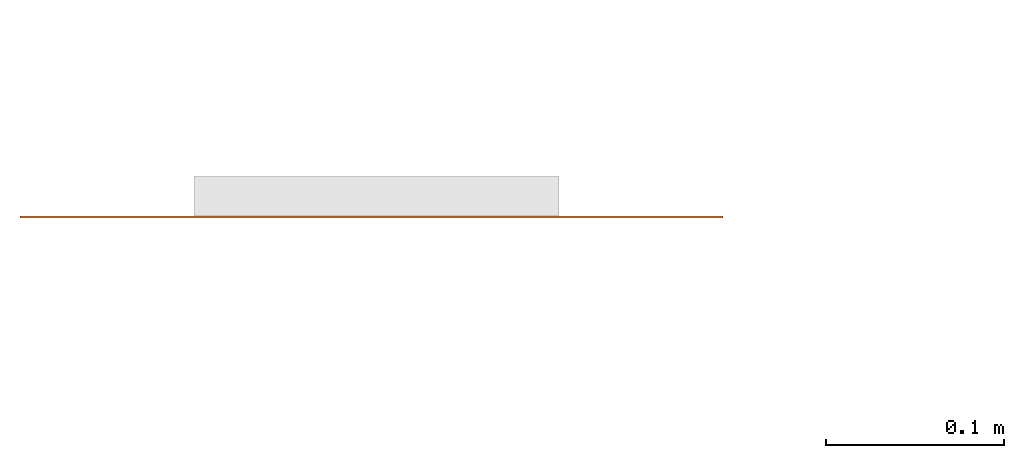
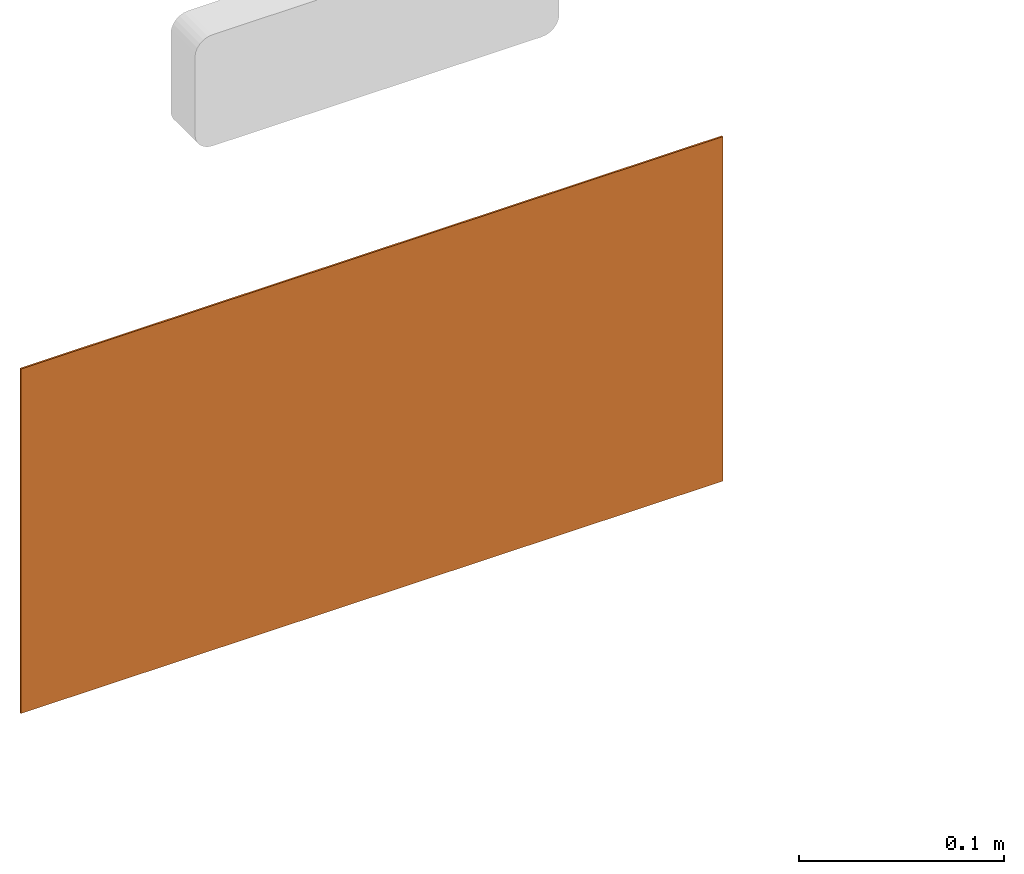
# One storey, part 110 of 119: 1 proxy.
"""IFC2X3 building model written with IfcOpenShell, lengths in metres."""

from ifc_helpers import new_model, entity, si_unit, converted_unit, derived_unit, direction, frame, origin, origin_2d_with_axis, place, context, subcontext, project, spatial, polyline, rectangle, outline, extrude, source, transform, mapped, material, material_list, type_object, type_shapes, element, save


model = new_model("IFC2X3")

# Units and contexts
model_context = context("Model", 3, precision=1e-05, world=origin(), true_north=direction((6.12303176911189e-17, 1.0)))
body_context = subcontext(model_context, "Body", "Model", "MODEL_VIEW")
ifc_project = project(units=[si_unit("LENGTHUNIT", "METRE"), si_unit("AREAUNIT", "SQUARE_METRE"), si_unit("VOLUMEUNIT", "CUBIC_METRE"), converted_unit("PLANEANGLEUNIT", "DEGREE", entity("IfcRatioMeasure", 0.0174532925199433), si_unit("PLANEANGLEUNIT", "RADIAN"), dimensions=[0, 0, 0, 0, 0, 0, 0]), si_unit("MASSUNIT", "GRAM", prefix="KILO"), derived_unit("MASSDENSITYUNIT", [(si_unit("MASSUNIT", "GRAM", prefix="KILO"), 1), (si_unit("LENGTHUNIT", "METRE"), -3)]), derived_unit("MOMENTOFINERTIAUNIT", [(si_unit("LENGTHUNIT", "METRE"), 4)]), si_unit("TIMEUNIT", "SECOND"), si_unit("FREQUENCYUNIT", "HERTZ"), si_unit("THERMODYNAMICTEMPERATUREUNIT", "DEGREE_CELSIUS"), derived_unit("THERMALTRANSMITTANCEUNIT", [(si_unit("MASSUNIT", "GRAM", prefix="KILO"), 1), (si_unit("THERMODYNAMICTEMPERATUREUNIT", "KELVIN"), -1), (si_unit("TIMEUNIT", "SECOND"), -3)]), derived_unit("VOLUMETRICFLOWRATEUNIT", [(si_unit("LENGTHUNIT", "METRE"), 3), (si_unit("TIMEUNIT", "SECOND"), -1)]), si_unit("ELECTRICCURRENTUNIT", "AMPERE"), si_unit("ELECTRICVOLTAGEUNIT", "VOLT"), si_unit("POWERUNIT", "WATT"), si_unit("FORCEUNIT", "NEWTON", prefix="KILO"), si_unit("ILLUMINANCEUNIT", "LUX"), si_unit("LUMINOUSFLUXUNIT", "LUMEN"), si_unit("LUMINOUSINTENSITYUNIT", "CANDELA"), derived_unit("USERDEFINED", [(si_unit("MASSUNIT", "GRAM", prefix="KILO"), -1), (si_unit("LENGTHUNIT", "METRE"), -2), (si_unit("TIMEUNIT", "SECOND"), 3), (si_unit("LUMINOUSFLUXUNIT", "LUMEN"), 1)]), derived_unit("LINEARVELOCITYUNIT", [(si_unit("LENGTHUNIT", "METRE"), 1), (si_unit("TIMEUNIT", "SECOND"), -1)]), si_unit("PRESSUREUNIT", "PASCAL"), derived_unit("USERDEFINED", [(si_unit("LENGTHUNIT", "METRE"), -2), (si_unit("MASSUNIT", "GRAM", prefix="KILO"), 1), (si_unit("TIMEUNIT", "SECOND"), -2)]), derived_unit("LINEARFORCEUNIT", [(si_unit("MASSUNIT", "GRAM", prefix="KILO"), 1), (si_unit("LENGTHUNIT", "METRE"), 1), (si_unit("TIMEUNIT", "SECOND"), -2), (si_unit("LENGTHUNIT", "METRE"), -1)]), derived_unit("PLANARFORCEUNIT", [(si_unit("MASSUNIT", "GRAM", prefix="KILO"), 1), (si_unit("LENGTHUNIT", "METRE"), 1), (si_unit("TIMEUNIT", "SECOND"), -2), (si_unit("LENGTHUNIT", "METRE"), -2)])], contexts=[model_context])

# Site, building, storey
site_placement = place(None, origin())
site = spatial("IfcSite", under=ifc_project, at=site_placement, Name="Default", CompositionType="ELEMENT")
building_placement = place(site_placement, origin())
building = spatial("IfcBuilding", under=site, at=building_placement, CompositionType="ELEMENT")
storey_placement = place(building_placement, origin())
storey = spatial("IfcBuildingStorey", under=building, at=storey_placement, Name="PAV. 01 - TÉRREO", CompositionType="ELEMENT", Elevation=0.0)

# Proxy
ifc_material_1 = material(Name="Plastico branco")
ifc_material_2 = material(Name="Plastico Verde")
ifc_material_list = material_list([ifc_material_1, ifc_material_2])
building_element_proxy_type = type_object("IfcBuildingElementProxyType", Name="Sinalização de orientação - S12 - Saída de emergência:Distância 12m", PredefinedType="NOTDEFINED", material=ifc_material_1)
shared_shape = source(origin(), body_context, "Body", "SweptSolid", [
    extrude(outline(polyline([(0.022665, -0.0273549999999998), (0.042445, -0.0273549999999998), (0.0110050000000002, 0.0634649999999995), (-0.0110349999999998, 0.0634649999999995), (-0.0429350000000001, -0.0273549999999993), (-0.0221550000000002, -0.0273549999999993), (-0.016355, -0.00875499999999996), (0.016365, -0.00875499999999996), (0.022665, -0.0273549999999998)]), holes=[polyline([(-0.0110349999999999, 0.00694499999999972), (8.50000000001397e-05, 0.0430049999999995), (0.011005, 0.00694499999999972), (-0.0110349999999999, 0.00694499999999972)])]), frame((0.137065, -0.0011, 2.284875), z_axis=(0.0, 1.0, 0.0), x_axis=(-1.0, 0.0, 0.0)), (0.0, 0.0, 1.0), 0.0011),
    extrude(outline(polyline([(0.00101999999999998, -0.00920000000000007), (0.01344, -0.00920000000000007), (0.00198000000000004, 0.00920000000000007), (-0.01644, 0.00920000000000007), (0.00101999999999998, -0.00920000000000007)])), frame((0.0041799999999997, -0.0011, 2.36684), z_axis=(0.0, 1.0, 0.0), x_axis=(-1.0, 0.0, 0.0)), (0.0, 0.0, 1.0), 0.0011),
    extrude(rectangle(XDim=0.0011, YDim=0.0186200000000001, at=origin_2d_with_axis()), frame((-0.00221000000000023, -0.00055, 2.25752), z_axis=(0.0, 0.0, 1.0), x_axis=(0.0, 1.0, 0.0)), (0.0, 0.0, 1.0), 0.0908200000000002),
    extrude(outline(polyline([(0.0226224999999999, -0.0273550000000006), (0.0423824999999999, -0.0273550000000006), (0.0109625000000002, 0.0634649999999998), (-0.0110974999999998, 0.0634649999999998), (-0.0425575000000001, -0.0273550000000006), (-0.0222175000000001, -0.0273550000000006), (-0.0164175, -0.0087550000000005), (0.0163224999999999, -0.0087550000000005), (0.0226224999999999, -0.0273550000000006)]), holes=[polyline([(-0.0110975, 0.00694499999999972), (2.25000000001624e-05, 0.0430049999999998), (0.0109625, 0.00694499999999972), (-0.0110975, 0.00694499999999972)])]), frame((-0.0607575, -0.0011, 2.284875), z_axis=(0.0, 1.0, 0.0), x_axis=(-1.0, 0.0, 0.0)), (0.0, 0.0, 1.0), 0.0011),
    extrude(outline(polyline([(-0.0593637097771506, -0.0416627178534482), (-0.0235037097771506, -0.0416627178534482), (-0.0155782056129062, -0.0414882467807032), (-0.00944676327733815, -0.0408437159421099), (-0.00458257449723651, -0.0395474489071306), (-0.000458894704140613, -0.0374178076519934), (0.00332259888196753, -0.0343505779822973), (0.00676252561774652, -0.0304813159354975), (0.00978475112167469, -0.0259918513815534), (0.0123131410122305, -0.0210640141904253), (0.0142715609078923, -0.0158796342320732), (0.0156118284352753, -0.0106067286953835), (0.0164003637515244, -0.00535668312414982), (0.0167329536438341, -0.000226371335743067), (0.0167053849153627, 0.00468733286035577), (0.0164134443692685, 0.00928755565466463), (0.015941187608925, 0.013495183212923), (0.015248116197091, 0.0174196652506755), (0.0142186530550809, 0.0212841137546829), (0.0127361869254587, 0.0253132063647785), (0.0106841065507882, 0.0297316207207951), (0.00791520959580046, 0.0347197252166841), (0.00390106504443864, 0.0399057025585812), (-0.00214544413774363, 0.0445430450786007), (-0.0110163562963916, 0.0478781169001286), (-0.0235037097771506, 0.0491572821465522), (-0.0593637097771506, 0.0491572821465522), (-0.0593637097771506, -0.0416627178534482)]), holes=[polyline([(-0.0407237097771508, 0.0334572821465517), (-0.0235037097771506, 0.0334572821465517), (-0.0184804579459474, 0.0328719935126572), (-0.0143606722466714, 0.0313003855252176), (-0.01104861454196, 0.0290188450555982), (-0.00844854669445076, 0.0263037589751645), (-0.00646492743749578, 0.0234093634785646), (-0.00500366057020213, 0.0204273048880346), (-0.00397129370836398, 0.0173767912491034), (-0.00327437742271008, 0.0142766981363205), (-0.00281946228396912, 0.011145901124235), (-0.00251671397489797, 0.00800245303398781), (-0.00233816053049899, 0.0048503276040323), (-0.0023077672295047, 0.00168167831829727), (-0.00245111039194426, -0.00151170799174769), (-0.00279376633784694, -0.00473804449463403), (-0.00336131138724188, -0.00800554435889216), (-0.00418197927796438, -0.011308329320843), (-0.0053013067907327, -0.014548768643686), (-0.00677175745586, -0.0175925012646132), (-0.00864581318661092, -0.020305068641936), (-0.0109759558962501, -0.022552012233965), (-0.0137994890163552, -0.0242105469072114), (-0.0169857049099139, -0.0252871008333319), (-0.0202993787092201, -0.0258684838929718), (-0.0235037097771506, -0.0260427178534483), (-0.0407237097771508, -0.0260427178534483), (-0.0407237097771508, 0.0334572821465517)])]), frame((0.0799837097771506, -0.0011, 2.30667728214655), z_axis=(0.0, 1.0, 0.0), x_axis=(1.0, 0.0, 0.0)), (0.0, 0.0, 1.0), 0.0011),
    extrude(outline(polyline([(-0.0345626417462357, 0.0187657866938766), (-0.0167626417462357, 0.0187657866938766), (-0.0160026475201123, 0.021720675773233), (-0.0150953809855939, 0.0241733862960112), (-0.0140440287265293, 0.0261781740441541), (-0.012851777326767, 0.0277892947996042), (-0.0115218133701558, 0.0290610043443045), (-0.0100573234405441, 0.0300475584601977), (-0.00846149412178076, 0.0308032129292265), (-0.00673751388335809, 0.0313822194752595), (-0.00489394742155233, 0.0318272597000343), (-0.00295651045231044, 0.0321441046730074), (-0.000954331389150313, 0.0323311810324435), (0.00108346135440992, 0.0323869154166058), (0.00312773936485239, 0.0323097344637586), (0.00514937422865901, 0.0320980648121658), (0.00711923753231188, 0.031750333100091), (0.00900820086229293, 0.0312649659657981), (0.010785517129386, 0.0306342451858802), (0.0124132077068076, 0.0298229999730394), (0.0138512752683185, 0.0287883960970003), (0.0150597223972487, 0.0274875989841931), (0.0159985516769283, 0.0258777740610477), (0.0166277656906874, 0.023916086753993), (0.016907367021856, 0.0215597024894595), (0.0167973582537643, 0.0187657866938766), (0.0162828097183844, 0.0172001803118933), (0.015351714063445, 0.0158433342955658), (0.0140362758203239, 0.0146686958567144), (0.0123686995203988, 0.013649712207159), (0.0103811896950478, 0.0127598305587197), (0.00810595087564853, 0.0119724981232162), (0.0055751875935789, 0.0112611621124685), (0.00282110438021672, 0.0105992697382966), (-0.0097799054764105, 0.00791382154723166), (-0.0131404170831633, 0.0070931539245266), (-0.0164874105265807, 0.00615022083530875), (-0.0197677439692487, 0.00505251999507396), (-0.0229282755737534, 0.00376754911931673), (-0.0259158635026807, 0.00226280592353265), (-0.0286773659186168, 0.000505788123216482), (-0.0311596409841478, -0.00153600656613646), (-0.0333095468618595, -0.00389508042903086), (-0.0350739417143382, -0.00660393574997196), (-0.0363996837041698, -0.00969507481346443), (-0.0372336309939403, -0.0132009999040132), (-0.0375226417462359, -0.0171542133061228), (-0.0369526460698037, -0.0241320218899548), (-0.0352963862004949, -0.0300763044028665), (-0.0326321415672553, -0.0350438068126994), (-0.0290381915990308, -0.0390912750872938), (-0.0245928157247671, -0.0422754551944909), (-0.0193742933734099, -0.0446530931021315), (-0.0134609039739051, -0.0462809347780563), (-0.00693092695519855, -0.0472157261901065), (0.000137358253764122, -0.0475142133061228), (0.00635452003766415, -0.0471678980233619), (0.0122978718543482, -0.0461110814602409), (0.0178453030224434, -0.0443239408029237), (0.0228747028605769, -0.0417866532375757), (0.0272639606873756, -0.0384793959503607), (0.0308909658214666, -0.0343823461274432), (0.033633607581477, -0.0294756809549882), (0.0353697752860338, -0.0237395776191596), (0.0359773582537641, -0.0171542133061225), (0.017837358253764, -0.0171542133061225), (0.0175636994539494, -0.0202050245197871), (0.0167888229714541, -0.0228103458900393), (0.0155818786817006, -0.0250059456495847), (0.0140120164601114, -0.0268275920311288), (0.0121483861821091, -0.0283110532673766), (0.0100601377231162, -0.0294920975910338), (0.00781642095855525, -0.0304064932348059), (0.00548638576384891, -0.0310900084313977), (0.00313811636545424, -0.0315777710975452), (0.000813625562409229, -0.0318892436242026), (-0.0014720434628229, -0.0320276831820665), (-0.00370509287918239, -0.0319955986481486), (-0.0058717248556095, -0.0317954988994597), (-0.0079581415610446, -0.0314298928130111), (-0.0099505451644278, -0.0309012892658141), (-0.0118351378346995, -0.0302121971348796), (-0.0135981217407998, -0.0293651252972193), (-0.015220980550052, -0.028358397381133), (-0.0166571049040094, -0.0271654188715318), (-0.0178495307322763, -0.0257504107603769), (-0.0187412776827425, -0.0240775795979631), (-0.019275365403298, -0.0221111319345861), (-0.0193948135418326, -0.0198152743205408), (-0.019042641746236, -0.0171542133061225), (-0.0182619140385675, -0.0153706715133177), (-0.0167498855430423, -0.0138072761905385), (-0.014644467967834, -0.0124427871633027), (-0.0120835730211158, -0.0112559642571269), (-0.00920511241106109, -0.0102255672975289), (-0.00614699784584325, -0.00933035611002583), (-0.00304714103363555, -0.0085490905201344), (0.00854519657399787, -0.00601654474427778), (0.0112531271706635, -0.00536949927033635), (0.0138997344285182, -0.00465127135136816), (0.0164923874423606, -0.00382905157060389), (0.0190384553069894, -0.00287003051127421), (0.021545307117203, -0.00174139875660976), (0.024010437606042, -0.000408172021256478), (0.0263792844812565, 0.00117609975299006), (0.0285801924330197, 0.00306163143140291), (0.0305414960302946, 0.00529864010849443), (0.0321915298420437, 0.00793734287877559), (0.0334586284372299, 0.0110279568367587), (0.0342711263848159, 0.0146206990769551), (0.0345573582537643, 0.0187657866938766), (0.0342104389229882, 0.0241388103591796), (0.0331330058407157, 0.0291645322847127), (0.0312655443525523, 0.0337668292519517), (0.0285485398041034, 0.0378695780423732), (0.0249224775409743, 0.0413966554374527), (0.0203278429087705, 0.0442719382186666), (0.0147051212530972, 0.0464193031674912), (0.00799479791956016, 0.0477626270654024), (0.000137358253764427, 0.0482257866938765), (-0.00858861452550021, 0.047492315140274), (-0.0161916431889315, 0.0453797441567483), (-0.0225917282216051, 0.0420205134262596), (-0.0277088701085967, 0.0375470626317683), (-0.0314630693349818, 0.032091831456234), (-0.0337743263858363, 0.0257872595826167), (-0.0345626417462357, 0.0187657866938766)])), frame((-0.144022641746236, -0.0011, 2.30259421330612), z_axis=(0.0, 1.0, 0.0), x_axis=(-1.0, 0.0, 0.0)), (0.0, 0.0, 1.0), 0.0011),
    extrude(rectangle(XDim=0.001, YDim=0.38, at=origin_2d_with_axis()), frame((0.0, -0.0005, 2.2075), z_axis=(0.0, 0.0, 1.0), x_axis=(0.0, 1.0, 0.0)), (0.0, 0.0, 1.0), 0.190000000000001),
    extrude(outline(polyline([(-0.102500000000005, -0.197499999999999), (0.102500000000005, -0.197499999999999), (0.102500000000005, 0.197499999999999), (-0.102500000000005, 0.197499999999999), (-0.102500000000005, -0.197499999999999)]), holes=[polyline([(-0.094999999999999, -0.189999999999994), (-0.094999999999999, 0.190000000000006), (0.0950000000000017, 0.190000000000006), (0.0950000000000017, -0.189999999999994), (-0.094999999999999, -0.189999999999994)])]), frame((0.0, -0.001, 2.30250000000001), z_axis=(0.0, 1.0, 0.0), x_axis=(0.0, 0.0, -1.0)), (0.0, 0.0, 1.0), 0.001),
])
type_shapes(building_element_proxy_type, [shared_shape])
proxy_placement = place(storey_placement, frame((-9.57593947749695, 70.3433373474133, 0.0), z_axis=(0.0, 0.0, 1.0), x_axis=(-1.0, 0.0, 0.0)))
element("IfcBuildingElementProxy", 1, at=proxy_placement, inside=storey, type_object=building_element_proxy_type, material=ifc_material_list, Name="Sinalização de orientação - S12 - Saída de emergência:Distância 12m", ObjectType="Sinalização de orientação - S12 - Saída de emergência:Distância 12m", context=body_context, shape_type="MappedRepresentation", body=[
    mapped(shared_shape, transform((0.0, 0.0, 0.0), scale=1.0)),
])

save(model, "model.ifc")
